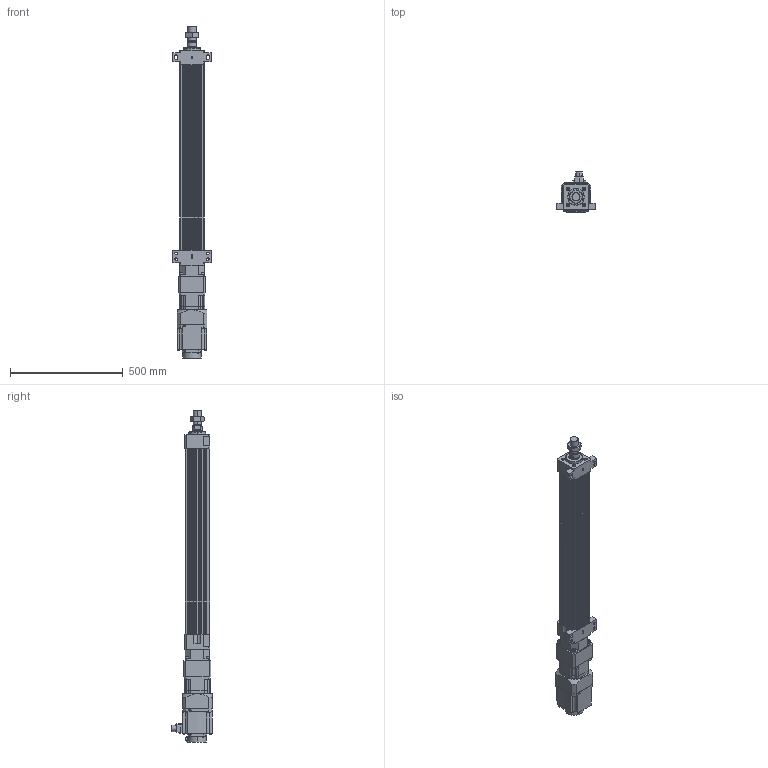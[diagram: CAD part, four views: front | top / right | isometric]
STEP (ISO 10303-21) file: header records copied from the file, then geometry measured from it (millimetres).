
FILE_DESCRIPTION (( 'STEP AP203' ), '1' );
FILE_NAME ('HES110NS(HS)-S650-W015G00-M-FFB.STEP', '2023-01-27T12:20:36', ( 'tms' ), ( '' ), 'SwSTEP 2.0', 'SolidWorks 2013', '' );
FILE_SCHEMA (( 'CONFIG_CONTROL_DESIGN' ));
Length unit declared in the file: millimetre
Products named in the file (8): HES110NS(HS)-S650-W015G00-M-FFB; M36X1.5P; AB115-003[HG-SR152]; AB1151; HES110 ROD M ST650; HES110-S650-G120-FFB; P0401400706; HG-SR152
Assembly tree (7 placements, depth 3):
  HES110NS(HS)-S650-W015G00-M-FFB
    HES110-S650-G120-FFB
    HES110 ROD M ST650
    M36X1.5P
    AB115-003[HG-SR152]
      AB1151
      P0401400706
    HG-SR152
Bounding box: 170 x 177.49 x 1471.5 mm (x, y, z)
Volume: 9462714.7 mm3; surface area: 1352519.6 mm2
Topology: 4 solids, 15 shells, 1194 faces, 3023 edges, 1968 vertices
Faces by surface type: plane 571, cylinder 531, cone 80, bspline 8, torus 4
Entity records: 37745 total; most frequent: CARTESIAN_POINT 7162, DIRECTION 6520, ORIENTED_EDGE 5998, EDGE_CURVE 3009, AXIS2_PLACEMENT_3D 2386, VERTEX_POINT 1968, VECTOR 1748, LINE 1748
